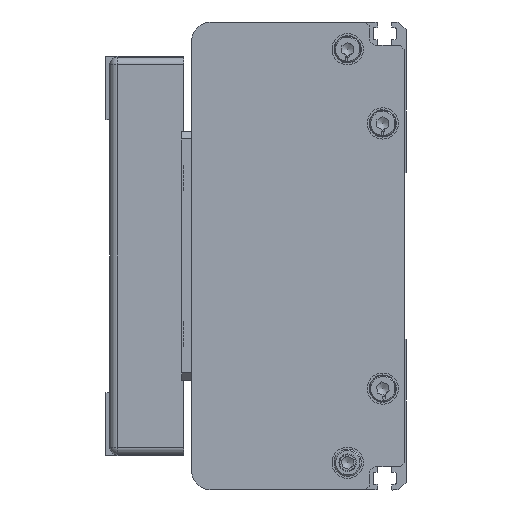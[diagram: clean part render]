
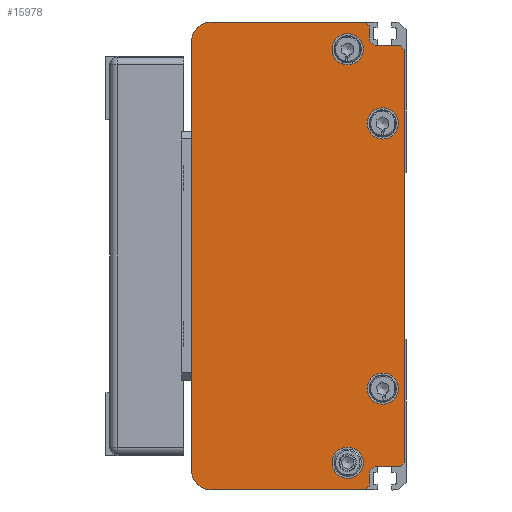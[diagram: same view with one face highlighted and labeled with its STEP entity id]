
A CAD part, left-side view. The second image highlights one B-rep face of the part: STEP entity #15978.
In plain terms, the highlighted planar face has unit normal (-1, 0, 0) as drawn and (0, 0, -1) by its records, which use the part's own axes.
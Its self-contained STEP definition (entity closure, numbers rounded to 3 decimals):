
#840=FACE_BOUND('',#2651,.T.);
#841=FACE_BOUND('',#2652,.T.);
#842=FACE_BOUND('',#2653,.T.);
#843=FACE_BOUND('',#2654,.T.);
#1168=CIRCLE('',#17126,5.);
#1169=CIRCLE('',#17128,5.);
#1170=CIRCLE('',#17129,2.);
#1171=CIRCLE('',#17130,2.);
#1172=CIRCLE('',#17131,4.);
#1173=CIRCLE('',#17132,4.);
#1174=CIRCLE('',#17133,4.);
#1175=CIRCLE('',#17134,4.);
#1608=FACE_OUTER_BOUND('',#2650,.T.);
#2650=EDGE_LOOP('',(#11016,#11017,#11018,#11019,#11020,#11021,#11022,#11023,
#11024,#11025,#11026,#11027,#11028,#11029,#11030,#11031));
#2651=EDGE_LOOP('',(#11032));
#2652=EDGE_LOOP('',(#11033));
#2653=EDGE_LOOP('',(#11034));
#2654=EDGE_LOOP('',(#11035));
#3897=LINE('',#22881,#5430);
#3898=LINE('',#22883,#5431);
#3899=LINE('',#22886,#5432);
#3900=LINE('',#22888,#5433);
#3901=LINE('',#22890,#5434);
#3902=LINE('',#22892,#5435);
#3903=LINE('',#22896,#5436);
#3904=LINE('',#22898,#5437);
#3905=LINE('',#22900,#5438);
#3906=LINE('',#22902,#5439);
#3907=LINE('',#22904,#5440);
#3908=LINE('',#22907,#5441);
#5430=VECTOR('',#18686,1.414);
#5431=VECTOR('',#18687,39.5);
#5432=VECTOR('',#18690,110.);
#5433=VECTOR('',#18691,39.5);
#5434=VECTOR('',#18692,1.414);
#5435=VECTOR('',#18693,3.);
#5436=VECTOR('',#18696,6.);
#5437=VECTOR('',#18697,1.414);
#5438=VECTOR('',#18698,106.);
#5439=VECTOR('',#18699,1.414);
#5440=VECTOR('',#18700,6.);
#5441=VECTOR('',#18703,3.);
#7005=VERTEX_POINT('',#22873);
#7006=VERTEX_POINT('',#22875);
#7007=VERTEX_POINT('',#22879);
#7008=VERTEX_POINT('',#22880);
#7009=VERTEX_POINT('',#22882);
#7010=VERTEX_POINT('',#22884);
#7011=VERTEX_POINT('',#22887);
#7012=VERTEX_POINT('',#22889);
#7013=VERTEX_POINT('',#22891);
#7014=VERTEX_POINT('',#22893);
#7015=VERTEX_POINT('',#22895);
#7016=VERTEX_POINT('',#22897);
#7017=VERTEX_POINT('',#22899);
#7018=VERTEX_POINT('',#22901);
#7019=VERTEX_POINT('',#22903);
#7020=VERTEX_POINT('',#22905);
#7021=VERTEX_POINT('',#22908);
#7022=VERTEX_POINT('',#22910);
#7023=VERTEX_POINT('',#22912);
#7024=VERTEX_POINT('',#22914);
#8607=EDGE_CURVE('',#7005,#7006,#1168,.T.);
#8609=EDGE_CURVE('',#7007,#7008,#3897,.T.);
#8610=EDGE_CURVE('',#7007,#7009,#3898,.T.);
#8611=EDGE_CURVE('',#7010,#7009,#1169,.T.);
#8612=EDGE_CURVE('',#7010,#7006,#3899,.T.);
#8613=EDGE_CURVE('',#7005,#7011,#3900,.T.);
#8614=EDGE_CURVE('',#7012,#7011,#3901,.T.);
#8615=EDGE_CURVE('',#7012,#7013,#3902,.T.);
#8616=EDGE_CURVE('',#7013,#7014,#1170,.T.);
#8617=EDGE_CURVE('',#7014,#7015,#3903,.T.);
#8618=EDGE_CURVE('',#7016,#7015,#3904,.T.);
#8619=EDGE_CURVE('',#7016,#7017,#3905,.T.);
#8620=EDGE_CURVE('',#7018,#7017,#3906,.T.);
#8621=EDGE_CURVE('',#7018,#7019,#3907,.T.);
#8622=EDGE_CURVE('',#7019,#7020,#1171,.T.);
#8623=EDGE_CURVE('',#7020,#7008,#3908,.T.);
#8624=EDGE_CURVE('',#7021,#7021,#1172,.T.);
#8625=EDGE_CURVE('',#7022,#7022,#1173,.T.);
#8626=EDGE_CURVE('',#7023,#7023,#1174,.T.);
#8627=EDGE_CURVE('',#7024,#7024,#1175,.T.);
#11016=ORIENTED_EDGE('',*,*,#8609,.F.);
#11017=ORIENTED_EDGE('',*,*,#8610,.T.);
#11018=ORIENTED_EDGE('',*,*,#8611,.F.);
#11019=ORIENTED_EDGE('',*,*,#8612,.T.);
#11020=ORIENTED_EDGE('',*,*,#8607,.F.);
#11021=ORIENTED_EDGE('',*,*,#8613,.T.);
#11022=ORIENTED_EDGE('',*,*,#8614,.F.);
#11023=ORIENTED_EDGE('',*,*,#8615,.T.);
#11024=ORIENTED_EDGE('',*,*,#8616,.T.);
#11025=ORIENTED_EDGE('',*,*,#8617,.T.);
#11026=ORIENTED_EDGE('',*,*,#8618,.F.);
#11027=ORIENTED_EDGE('',*,*,#8619,.T.);
#11028=ORIENTED_EDGE('',*,*,#8620,.F.);
#11029=ORIENTED_EDGE('',*,*,#8621,.T.);
#11030=ORIENTED_EDGE('',*,*,#8622,.T.);
#11031=ORIENTED_EDGE('',*,*,#8623,.T.);
#11032=ORIENTED_EDGE('',*,*,#8624,.T.);
#11033=ORIENTED_EDGE('',*,*,#8625,.T.);
#11034=ORIENTED_EDGE('',*,*,#8626,.T.);
#11035=ORIENTED_EDGE('',*,*,#8627,.T.);
#15346=PLANE('',#17127);
#15978=ADVANCED_FACE('',(#1608,#840,#841,#842,#843),#15346,.F.);
#17126=AXIS2_PLACEMENT_3D('',#22876,#18681,#18682);
#17127=AXIS2_PLACEMENT_3D('',#22878,#18684,#18685);
#17128=AXIS2_PLACEMENT_3D('',#22885,#18688,#18689);
#17129=AXIS2_PLACEMENT_3D('',#22894,#18694,#18695);
#17130=AXIS2_PLACEMENT_3D('',#22906,#18701,#18702);
#17131=AXIS2_PLACEMENT_3D('',#22909,#18704,#18705);
#17132=AXIS2_PLACEMENT_3D('',#22911,#18706,#18707);
#17133=AXIS2_PLACEMENT_3D('',#22913,#18708,#18709);
#17134=AXIS2_PLACEMENT_3D('',#22915,#18710,#18711);
#18681=DIRECTION('center_axis',(0.,0.,
1.));
#18682=DIRECTION('ref_axis',(0.707,0.707,0.));
#18684=DIRECTION('center_axis',(0.,0.,
1.));
#18685=DIRECTION('ref_axis',(-1.,-0.018,0.));
#18686=DIRECTION('',(0.707,-0.707,0.));
#18687=DIRECTION('',(0.,1.,0.));
#18688=DIRECTION('center_axis',(0.,0.,
1.));
#18689=DIRECTION('ref_axis',(-0.707,0.707,0.));
#18690=DIRECTION('',(1.,0.,0.));
#18691=DIRECTION('',(0.,-1.,0.));
#18692=DIRECTION('',(0.707,0.707,0.));
#18693=DIRECTION('',(-1.,0.,0.));
#18694=DIRECTION('center_axis',(0.,0.,
1.));
#18695=DIRECTION('ref_axis',(0.,-1.,0.));
#18696=DIRECTION('',(0.,-1.,0.));
#18697=DIRECTION('',(0.707,0.707,0.));
#18698=DIRECTION('',(-1.,0.,0.));
#18699=DIRECTION('',(0.707,-0.707,0.));
#18700=DIRECTION('',(0.,1.,0.));
#18701=DIRECTION('center_axis',(0.,0.,
1.));
#18702=DIRECTION('ref_axis',(1.,0.,0.));
#18703=DIRECTION('',(-1.,0.,0.));
#18704=DIRECTION('center_axis',(0.,0.,
1.));
#18705=DIRECTION('ref_axis',(0.,1.,0.));
#18706=DIRECTION('center_axis',(0.,0.,
1.));
#18707=DIRECTION('ref_axis',(0.,1.,0.));
#18708=DIRECTION('center_axis',(0.,0.,
1.));
#18709=DIRECTION('ref_axis',(0.,1.,0.));
#18710=DIRECTION('center_axis',(0.,0.,
1.));
#18711=DIRECTION('ref_axis',(0.,1.,0.));
#22873=CARTESIAN_POINT('',(124.75,50.75,-1242.5));
#22875=CARTESIAN_POINT('',(119.75,55.75,-1242.5));
#22876=CARTESIAN_POINT('Origin',(119.75,50.75,-1242.5));
#22878=CARTESIAN_POINT('Origin',(64.75,28.5,-1242.5));
#22879=CARTESIAN_POINT('',(4.75,11.25,-1242.5));
#22880=CARTESIAN_POINT('',(5.75,10.25,-1242.5));
#22881=CARTESIAN_POINT('',(4.75,11.25,-1242.5));
#22882=CARTESIAN_POINT('',(4.75,50.75,-1242.5));
#22883=CARTESIAN_POINT('',(4.75,11.25,-1242.5));
#22884=CARTESIAN_POINT('',(9.75,55.75,-1242.5));
#22885=CARTESIAN_POINT('Origin',(9.75,50.75,-1242.5));
#22886=CARTESIAN_POINT('',(9.75,55.75,-1242.5));
#22887=CARTESIAN_POINT('',(124.75,11.25,-1242.5));
#22888=CARTESIAN_POINT('',(124.75,50.75,-1242.5));
#22889=CARTESIAN_POINT('',(123.75,10.25,-1242.5));
#22890=CARTESIAN_POINT('',(123.75,10.25,-1242.5));
#22891=CARTESIAN_POINT('',(120.75,10.25,-1242.5));
#22892=CARTESIAN_POINT('',(123.75,10.25,-1242.5));
#22893=CARTESIAN_POINT('',(118.75,8.25,-1242.5));
#22894=CARTESIAN_POINT('Origin',(120.75,8.25,-1242.5));
#22895=CARTESIAN_POINT('',(118.75,2.25,-1242.5));
#22896=CARTESIAN_POINT('',(118.75,8.25,-1242.5));
#22897=CARTESIAN_POINT('',(117.75,1.25,-1242.5));
#22898=CARTESIAN_POINT('',(117.75,1.25,-1242.5));
#22899=CARTESIAN_POINT('',(11.75,1.25,-1242.5));
#22900=CARTESIAN_POINT('',(117.75,1.25,-1242.5));
#22901=CARTESIAN_POINT('',(10.75,2.25,-1242.5));
#22902=CARTESIAN_POINT('',(10.75,2.25,-1242.5));
#22903=CARTESIAN_POINT('',(10.75,8.25,-1242.5));
#22904=CARTESIAN_POINT('',(10.75,2.25,-1242.5));
#22905=CARTESIAN_POINT('',(8.75,10.25,-1242.5));
#22906=CARTESIAN_POINT('Origin',(8.75,8.25,-1242.5));
#22907=CARTESIAN_POINT('',(8.75,10.25,-1242.5));
#22908=CARTESIAN_POINT('',(30.75,10.75,-1242.5));
#22909=CARTESIAN_POINT('Origin',(30.75,6.75,-1242.5));
#22910=CARTESIAN_POINT('',(98.75,10.75,-1242.5));
#22911=CARTESIAN_POINT('Origin',(98.75,6.75,-1242.5));
#22912=CARTESIAN_POINT('',(11.75,19.75,-1242.5));
#22913=CARTESIAN_POINT('Origin',(11.75,15.75,-1242.5));
#22914=CARTESIAN_POINT('',(117.75,19.75,-1242.5));
#22915=CARTESIAN_POINT('Origin',(117.75,15.75,-1242.5));
